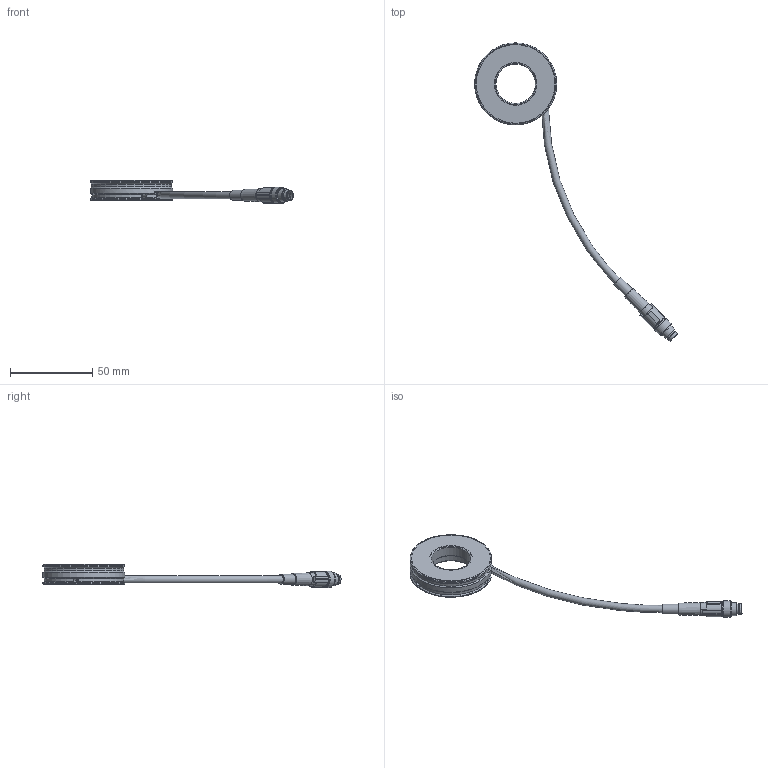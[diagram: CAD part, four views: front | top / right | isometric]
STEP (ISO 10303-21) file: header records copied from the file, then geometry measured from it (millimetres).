
FILE_DESCRIPTION(/* description */ ('Unknown','CAx-IF Rec.Pracs.---Representation and Presentation of Product Manufacturing Information (PMI)---4.0---2014-10-13','CAx-IF Rec.Pracs.---3D Tessellated Geometry---0.4---2014-09-14','2;1'),/* implementation_level */ '2;1');
FILE_NAME(/* name */ '10X.0077_BR50',/* time_stamp */ '2021-09-17T10:12:48+02:00',/* author */ ('AW'),/* organization */ ('iiM AG'),/* preprocessor_version */ 'ST-DEVELOPER v16.7',/* originating_system */ 'DEX',/* authorisation */ $);
FILE_SCHEMA (('AP242_MANAGED_MODEL_BASED_3D_ENGINEERING_MIM_LF { 1 0 10303 442 1 1 4 }'));
Length unit declared in the file: millimetre
Products named in the file (1): BR50
Bounding box: 123.6 x 181.76 x 14.03 mm (x, y, z)
Volume: 20237.8 mm3; surface area: 9534.8 mm2
Topology: 1 solids, 1 shells, 175 faces, 392 edges, 249 vertices
Faces by surface type: plane 78, cylinder 65, cone 23, torus 8, bspline 1
Full cylindrical faces by diameter (mm): 1 x4, 2.459 x4, 3.1 x2, 3.242 x8, 5.7 x1, 6 x1, 6.35 x1, 8 x2, 9 x1, 9.3 x2, 10 x1, 24 x1, 26 x1, 27.5 x1, 48 x1, 48.5 x1, 50 x2
Entity records: 6421 total; most frequent: CARTESIAN_POINT 1559, DIRECTION 769, ORIENTED_EDGE 656, EDGE_CURVE 328, AXIS2_PLACEMENT_3D 325, EDGE_LOOP 255, FACE_BOUND 255, VERTEX_POINT 233
